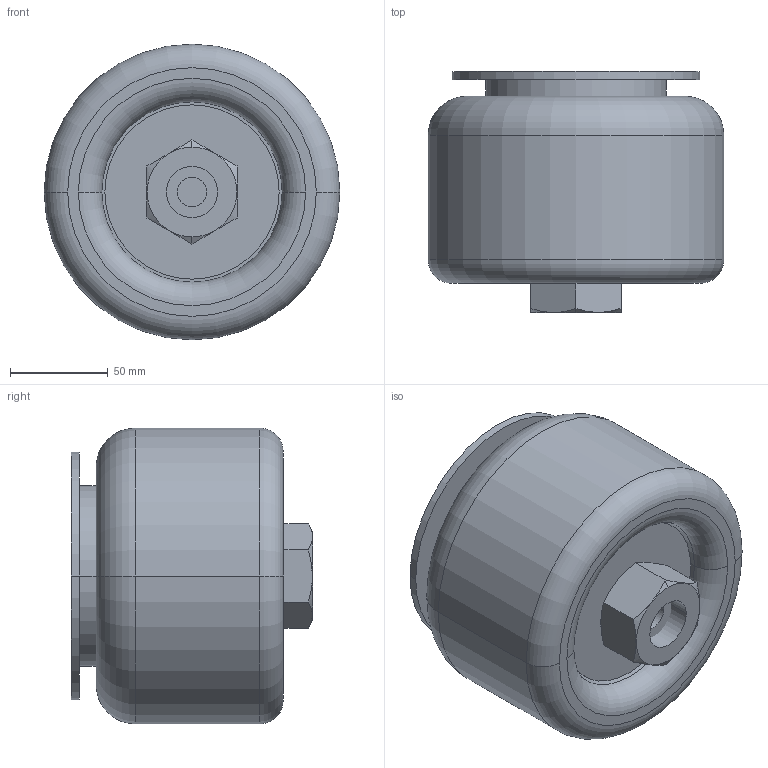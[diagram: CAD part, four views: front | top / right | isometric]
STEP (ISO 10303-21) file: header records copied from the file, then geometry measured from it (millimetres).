
FILE_DESCRIPTION((''),'2;1');
FILE_NAME('0822419123_ASM','2015-06-30T',('vol1hc'),(''),'PRO/ENGINEER BY PARAMETRIC TECHNOLOGY CORPORATION, 2012421','PRO/ENGINEER BY PARAMETRIC TECHNOLOGY CORPORATION, 2012421','');
FILE_SCHEMA(('CONFIG_CONTROL_DESIGN','SHAPE_APPEARANCE_LAYERS_GROUPS'));
Length unit declared in the file: millimetre
Products named in the file (6): 0822419123-D; 0822419123-C; 0822419123-A; 0822419123-B; SG-BRB-3-E; 0822419123_ASM
Assembly tree (6 placements, depth 2):
  0822419123_ASM
    0822419123-D
    0822419123-C  x2
    0822419123-A
    0822419123-B
    SG-BRB-3-E
Bounding box: 151 x 123.1 x 151 mm (x, y, z)
Volume: 704104.2 mm3; surface area: 267224.3 mm2
Topology: 6 solids, 6 shells, 93 faces, 190 edges, 117 vertices
Faces by surface type: cylinder 42, plane 27, torus 16, cone 8
Entity records: 2710 total; most frequent: CARTESIAN_POINT 522, DIRECTION 474, ORIENTED_EDGE 352, AXIS2_PLACEMENT_3D 211, EDGE_CURVE 176, CIRCLE 112, VERTEX_POINT 109, EDGE_LOOP 105
